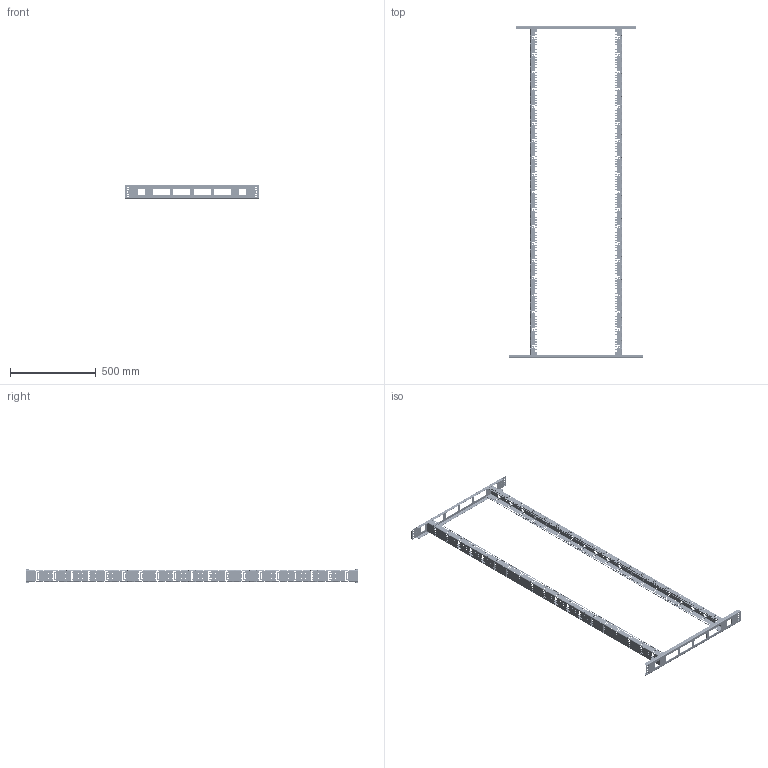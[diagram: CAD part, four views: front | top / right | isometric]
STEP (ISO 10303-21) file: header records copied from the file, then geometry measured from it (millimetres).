
FILE_DESCRIPTION (( 'STEP AP203' ), '1' );
FILE_NAME ('MC 200.80 ID Ðàìà 19” äâóõñòîðîííÿÿ.STEP', '2020-04-10T08:07:20', ( '' ), ( '' ), 'SwSTEP 2.0', 'SolidWorks 2018', '' );
FILE_SCHEMA (( 'CONFIG_CONTROL_DESIGN' ));
Products named in the file (1): MC 200.80 ID Ðàìà 19” äâóõñòîðîííÿÿ
Bounding box: 780 x 1935.6 x 76 mm (x, y, z)
Volume: 1162635 mm3; surface area: 1301748.9 mm2
Topology: 1 solids, 1 shells, 8388 faces, 24792 edges, 16072 vertices
Faces by surface type: cylinder 4516, plane 3536, bspline 336
Entity records: 329605 total; most frequent: CARTESIAN_POINT 96965, ORIENTED_EDGE 49584, DIRECTION 47914, EDGE_CURVE 24792, AXIS2_PLACEMENT_3D 16413, VERTEX_POINT 16072, LINE 15088, VECTOR 15088
